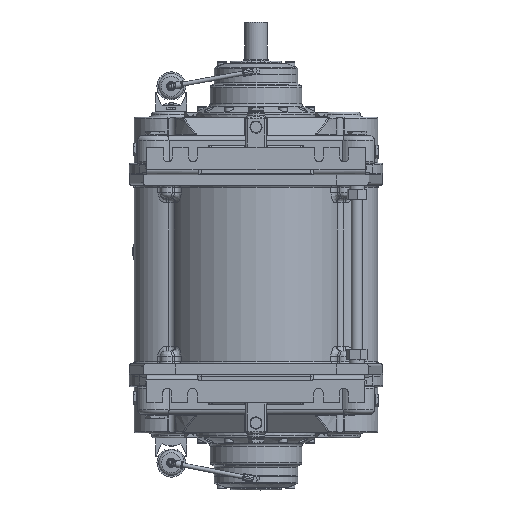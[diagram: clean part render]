
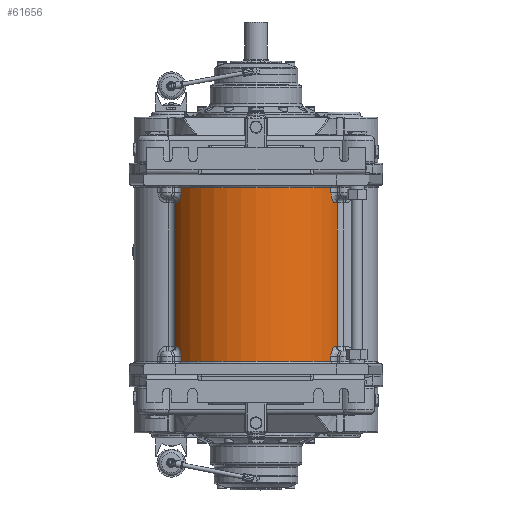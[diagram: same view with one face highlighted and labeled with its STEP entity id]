
A CAD part, front view. The second image highlights one B-rep face of the part: STEP entity #61656.
In plain terms, the highlighted cylindrical face has radius 180.5 mm (diameter 361 mm), a partial arc.
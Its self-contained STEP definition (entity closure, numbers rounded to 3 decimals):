
#781=B_SPLINE_CURVE_WITH_KNOTS('',3,(#90959,#90960,#90961,#90962,#90963,
#90964,#90965),.UNSPECIFIED.,.F.,.F.,(4,1,1,1,4),(-3.142,-2.244,
-1.347,-0.898,0.),
 .UNSPECIFIED.);
#783=B_SPLINE_CURVE_WITH_KNOTS('',3,(#91125,#91126,#91127,#91128,#91129,
#91130,#91131),.UNSPECIFIED.,.F.,.F.,(4,1,1,1,4),(-3.142,-2.244,
-1.347,-0.898,0.),.UNSPECIFIED.);
#790=B_SPLINE_CURVE_WITH_KNOTS('',3,(#91357,#91358,#91359,#91360,#91361,
#91362,#91363),.UNSPECIFIED.,.F.,.F.,(4,1,1,1,4),(-3.142,-2.693,
-1.796,-0.898,0.),
 .UNSPECIFIED.);
#793=B_SPLINE_CURVE_WITH_KNOTS('',3,(#91487,#91488,#91489,#91490,#91491,
#91492,#91493),.UNSPECIFIED.,.F.,.F.,(4,1,1,1,4),(-3.142,-2.244,
-1.347,-0.898,0.),
 .UNSPECIFIED.);
#3194=CYLINDRICAL_SURFACE('',#65746,180.5);
#4845=LINE('',#90968,#8899);
#4855=LINE('',#91145,#8909);
#4863=LINE('',#91268,#8917);
#4869=LINE('',#91377,#8923);
#4875=LINE('',#91494,#8929);
#4876=LINE('',#91495,#8930);
#8899=VECTOR('',#72876,10.);
#8909=VECTOR('',#72936,10.);
#8917=VECTOR('',#72986,10.);
#8923=VECTOR('',#73004,10.);
#8929=VECTOR('',#73050,10.);
#8930=VECTOR('',#73051,10.);
#14413=FACE_OUTER_BOUND('',#18032,.T.);
#18032=EDGE_LOOP('',(#41370,#41371,#41372,#41373,#41374,#41375,#41376,#41377,
#41378,#41379,#41380,#41381,#41382,#41383,#41384,#41385));
#21897=CIRCLE('',#65396,180.5);
#21975=CIRCLE('',#65519,180.5);
#22076=CIRCLE('',#65692,180.5);
#22083=CIRCLE('',#65706,180.5);
#22101=CIRCLE('',#65733,180.5);
#22111=CIRCLE('',#65747,180.5);
#24984=VERTEX_POINT('',#89196);
#24985=VERTEX_POINT('',#89200);
#25050=VERTEX_POINT('',#90239);
#25051=VERTEX_POINT('',#90243);
#25110=VERTEX_POINT('',#90956);
#25111=VERTEX_POINT('',#90958);
#25120=VERTEX_POINT('',#91068);
#25121=VERTEX_POINT('',#91123);
#25122=VERTEX_POINT('',#91124);
#25130=VERTEX_POINT('',#91213);
#25138=VERTEX_POINT('',#91266);
#25145=VERTEX_POINT('',#91355);
#25146=VERTEX_POINT('',#91356);
#25152=VERTEX_POINT('',#91435);
#25158=VERTEX_POINT('',#91484);
#25159=VERTEX_POINT('',#91486);
#31002=EDGE_CURVE('',#24984,#24985,#21897,.T.);
#31138=EDGE_CURVE('',#25050,#25051,#21975,.T.);
#31282=EDGE_CURVE('',#25110,#25111,#781,.T.);
#31284=EDGE_CURVE('',#24985,#25110,#4845,.T.);
#31303=EDGE_CURVE('',#25111,#25120,#22076,.T.);
#31307=EDGE_CURVE('',#25121,#25122,#783,.T.);
#31312=EDGE_CURVE('',#25122,#24984,#4855,.T.);
#31320=EDGE_CURVE('',#25130,#25121,#22083,.T.);
#31337=EDGE_CURVE('',#25130,#25138,#4863,.T.);
#31346=EDGE_CURVE('',#25145,#25146,#790,.T.);
#31351=EDGE_CURVE('',#25146,#25050,#4869,.T.);
#31357=EDGE_CURVE('',#25152,#25145,#22101,.T.);
#31371=EDGE_CURVE('',#25158,#25138,#22111,.T.);
#31372=EDGE_CURVE('',#25159,#25158,#793,.T.);
#31373=EDGE_CURVE('',#25051,#25159,#4875,.T.);
#31374=EDGE_CURVE('',#25120,#25152,#4876,.T.);
#41370=ORIENTED_EDGE('',*,*,#31002,.F.);
#41371=ORIENTED_EDGE('',*,*,#31312,.F.);
#41372=ORIENTED_EDGE('',*,*,#31307,.F.);
#41373=ORIENTED_EDGE('',*,*,#31320,.F.);
#41374=ORIENTED_EDGE('',*,*,#31337,.T.);
#41375=ORIENTED_EDGE('',*,*,#31371,.F.);
#41376=ORIENTED_EDGE('',*,*,#31372,.F.);
#41377=ORIENTED_EDGE('',*,*,#31373,.F.);
#41378=ORIENTED_EDGE('',*,*,#31138,.F.);
#41379=ORIENTED_EDGE('',*,*,#31351,.F.);
#41380=ORIENTED_EDGE('',*,*,#31346,.F.);
#41381=ORIENTED_EDGE('',*,*,#31357,.F.);
#41382=ORIENTED_EDGE('',*,*,#31374,.F.);
#41383=ORIENTED_EDGE('',*,*,#31303,.F.);
#41384=ORIENTED_EDGE('',*,*,#31282,.F.);
#41385=ORIENTED_EDGE('',*,*,#31284,.F.);
#61656=ADVANCED_FACE('',(#14413),#3194,.T.);
#65396=AXIS2_PLACEMENT_3D('',#89202,#72244,#72245);
#65519=AXIS2_PLACEMENT_3D('',#90245,#72522,#72523);
#65692=AXIS2_PLACEMENT_3D('',#91073,#72915,#72916);
#65706=AXIS2_PLACEMENT_3D('',#91215,#72949,#72950);
#65733=AXIS2_PLACEMENT_3D('',#91437,#73016,#73017);
#65746=AXIS2_PLACEMENT_3D('',#91483,#73046,#73047);
#65747=AXIS2_PLACEMENT_3D('',#91485,#73048,#73049);
#72244=DIRECTION('center_axis',(0.,0.,
1.));
#72245=DIRECTION('ref_axis',(0.,-1.,0.));
#72522=DIRECTION('center_axis',(0.,0.,
-1.));
#72523=DIRECTION('ref_axis',(0.,-1.,0.));
#72876=DIRECTION('',(0.,0.,-1.));
#72915=DIRECTION('center_axis',(0.,0.,
1.));
#72916=DIRECTION('ref_axis',(0.872,-0.489,0.));
#72936=DIRECTION('',(0.,0.,1.));
#72949=DIRECTION('center_axis',(0.,0.,
1.));
#72950=DIRECTION('ref_axis',(-0.872,-0.489,0.));
#72986=DIRECTION('',(0.,0.,-1.));
#73004=DIRECTION('',(0.,0.,-1.));
#73016=DIRECTION('center_axis',(0.,0.,
-1.));
#73017=DIRECTION('ref_axis',(0.872,-0.489,0.));
#73046=DIRECTION('center_axis',(0.,0.,
-1.));
#73047=DIRECTION('ref_axis',(0.891,-0.454,0.));
#73048=DIRECTION('center_axis',(0.,0.,
-1.));
#73049=DIRECTION('ref_axis',(-0.872,-0.489,0.));
#73050=DIRECTION('',(0.,0.,1.));
#73051=DIRECTION('',(0.,0.,-1.));
#89196=CARTESIAN_POINT('',(-148.662,-102.371,172.));
#89200=CARTESIAN_POINT('',(148.662,-102.371,172.));
#89202=CARTESIAN_POINT('Origin',(0.,0.,
172.));
#90239=CARTESIAN_POINT('',(148.662,-102.371,-172.));
#90243=CARTESIAN_POINT('',(-148.662,-102.371,-172.));
#90245=CARTESIAN_POINT('Origin',(0.,0.,
-172.));
#90956=CARTESIAN_POINT('',(148.662,-102.371,162.));
#90958=CARTESIAN_POINT('',(158.576,-86.221,142.));
#90959=CARTESIAN_POINT('Ctrl Pts',(148.662,-102.371,162.));
#90960=CARTESIAN_POINT('Ctrl Pts',(148.662,-102.371,159.007));
#90961=CARTESIAN_POINT('Ctrl Pts',(149.404,-101.308,153.024));
#90962=CARTESIAN_POINT('Ctrl Pts',(151.912,-97.529,147.031));
#90963=CARTESIAN_POINT('Ctrl Pts',(155.097,-92.393,143.027));
#90964=CARTESIAN_POINT('Ctrl Pts',(157.221,-88.712,142.));
#90965=CARTESIAN_POINT('Ctrl Pts',(158.576,-86.221,142.));
#90968=CARTESIAN_POINT('',(148.662,-102.371,0.));
#91068=CARTESIAN_POINT('',(160.817,-81.965,142.));
#91073=CARTESIAN_POINT('Origin',(0.,0.,
142.));
#91123=CARTESIAN_POINT('',(-158.576,-86.221,142.));
#91124=CARTESIAN_POINT('',(-148.662,-102.371,162.));
#91125=CARTESIAN_POINT('Ctrl Pts',(-158.576,-86.221,142.));
#91126=CARTESIAN_POINT('Ctrl Pts',(-157.221,-88.712,
142.));
#91127=CARTESIAN_POINT('Ctrl Pts',(-154.386,-93.625,
143.364));
#91128=CARTESIAN_POINT('Ctrl Pts',(-151.329,-98.412,148.148));
#91129=CARTESIAN_POINT('Ctrl Pts',(-149.22,-101.57,
154.524));
#91130=CARTESIAN_POINT('Ctrl Pts',(-148.662,-102.371,
159.007));
#91131=CARTESIAN_POINT('Ctrl Pts',(-148.662,-102.371,
162.));
#91145=CARTESIAN_POINT('',(-148.662,-102.371,0.));
#91213=CARTESIAN_POINT('',(-160.817,-81.965,142.));
#91215=CARTESIAN_POINT('Origin',(0.,0.,
142.));
#91266=CARTESIAN_POINT('',(-160.817,-81.965,-142.));
#91268=CARTESIAN_POINT('',(-160.817,-81.965,0.));
#91355=CARTESIAN_POINT('',(158.576,-86.221,-142.));
#91356=CARTESIAN_POINT('',(148.662,-102.371,-162.));
#91357=CARTESIAN_POINT('Ctrl Pts',(158.576,-86.221,-142.));
#91358=CARTESIAN_POINT('Ctrl Pts',(157.898,-87.466,-142.));
#91359=CARTESIAN_POINT('Ctrl Pts',(155.823,-91.18,-142.5));
#91360=CARTESIAN_POINT('Ctrl Pts',(152.415,-96.776,-145.827));
#91361=CARTESIAN_POINT('Ctrl Pts',(149.404,-101.307,-153.025));
#91362=CARTESIAN_POINT('Ctrl Pts',(148.662,-102.371,-159.007));
#91363=CARTESIAN_POINT('Ctrl Pts',(148.662,-102.371,-162.));
#91377=CARTESIAN_POINT('',(148.662,-102.371,0.));
#91435=CARTESIAN_POINT('',(160.817,-81.965,-142.));
#91437=CARTESIAN_POINT('Origin',(0.,0.,
-142.));
#91483=CARTESIAN_POINT('Origin',(0.,0.,0.));
#91484=CARTESIAN_POINT('',(-158.576,-86.221,-142.));
#91485=CARTESIAN_POINT('Origin',(0.,0.,
-142.));
#91486=CARTESIAN_POINT('',(-148.662,-102.371,-162.));
#91487=CARTESIAN_POINT('Ctrl Pts',(-148.662,-102.371,
-162.));
#91488=CARTESIAN_POINT('Ctrl Pts',(-148.662,-102.371,
-159.007));
#91489=CARTESIAN_POINT('Ctrl Pts',(-149.404,-101.308,-153.024));
#91490=CARTESIAN_POINT('Ctrl Pts',(-151.912,-97.529,
-147.031));
#91491=CARTESIAN_POINT('Ctrl Pts',(-155.097,-92.393,
-143.027));
#91492=CARTESIAN_POINT('Ctrl Pts',(-157.221,-88.712,
-142.));
#91493=CARTESIAN_POINT('Ctrl Pts',(-158.576,-86.221,-142.));
#91494=CARTESIAN_POINT('',(-148.662,-102.371,0.));
#91495=CARTESIAN_POINT('',(160.817,-81.965,0.));
